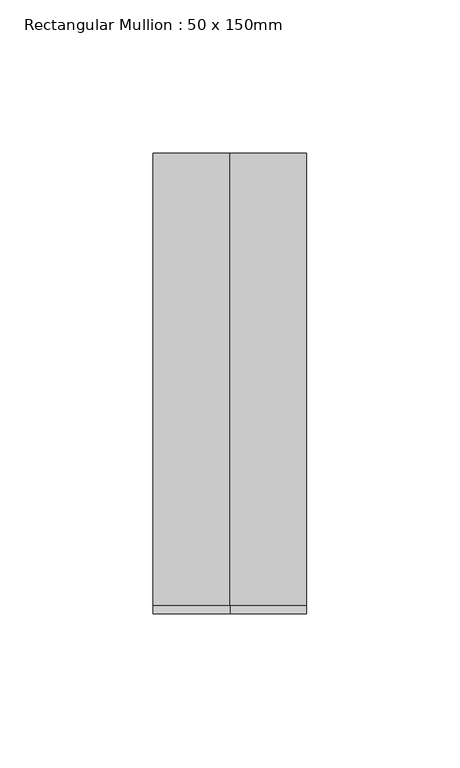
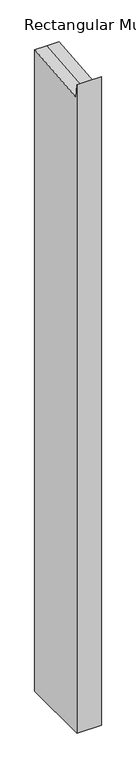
"""IFC4 building model written with IfcOpenShell, lengths in millimetres: member geometry, Rectangular Mullion : 50 x 150mm."""

from ifc_helpers import new_model, si_unit, origin, place, context, project, spatial, faceted_brep, source, transform, mapped, element, save


def rectangular_mullion_50_x_150mm_3704f5c6(model_context):
    return source(origin(), model_context, "Body", "Brep", [
        faceted_brep([(25.0, 75.0, -1383.1465145), (25.0, -75.0, -1383.1465145), (-25.0, -75.0, -1383.1465145), (-25.0, 75.0, -1383.1465145), (-25.0, 75.0, 7.0110941), (0.0, 75.0, 7.0110941), (25.0, 75.0, 7.0110941), (-25.0, -75.0, 21.4461925), (-25.0, -72.3000691, -6.9796813), (25.0, -75.0, 21.4461925), (0.0, -75.0, 21.4461925), (25.0, -72.3000691, -6.9796813), (0.0, -72.3000691, -6.9796813)], [[[0, 1, 2, 3]], [[4, 5, 6, 0, 3]], [[7, 8, 4, 3, 2]], [[9, 10, 7, 2, 1]], [[6, 11, 9, 1, 0]], [[6, 5, 12, 11]], [[5, 4, 8, 12]], [[8, 7, 10, 12]], [[10, 9, 11, 12]]]),
    ])


if __name__ == "__main__":
    model = new_model("IFC4")
    model_context = context("Model", 3, world=origin())
    ifc_project = project(units=[si_unit("LENGTHUNIT", "METRE", prefix="MILLI")], contexts=[model_context])
    site = spatial("IfcSite", under=ifc_project)
    building = spatial("IfcBuilding", under=site)
    placement = place(None, origin())
    rectangular_mullion_50_x_150mm_shape = rectangular_mullion_50_x_150mm_3704f5c6(model_context)
    element("IfcMember", 1, ObjectType="Rectangular Mullion : 50 x 150mm", at=placement, inside=building, context=model_context, shape_type="MappedRepresentation", body=[
        mapped(rectangular_mullion_50_x_150mm_shape, transform((0.0, 0.0, 0.0), x_axis=(1.0, 0.0, 0.0), y_axis=(0.0, 1.0, 0.0), z_axis=(0.0, 0.0, 1.0))),
    ])
    save(model, "model.ifc")
